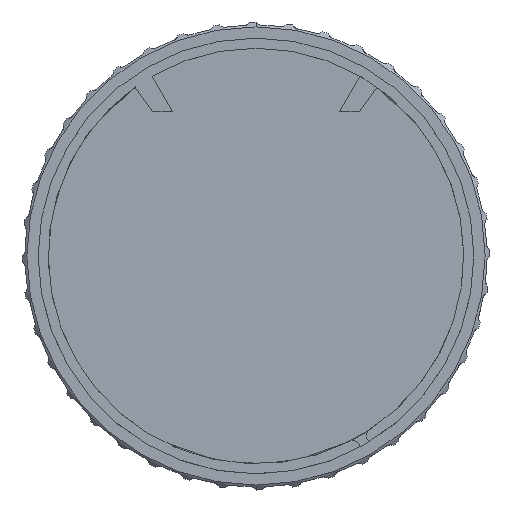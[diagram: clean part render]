
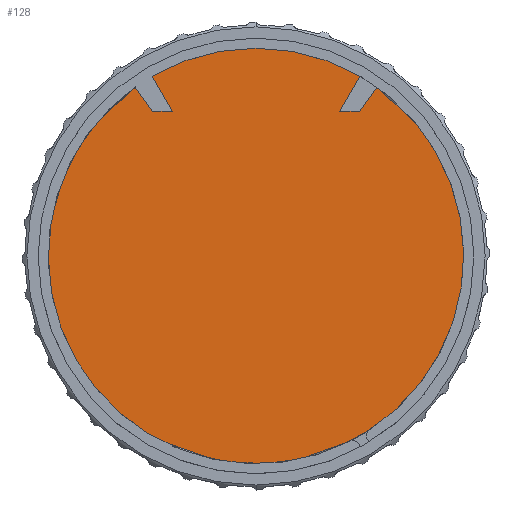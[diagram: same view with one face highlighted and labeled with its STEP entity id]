
A CAD part, top view. The second image highlights one B-rep face of the part: STEP entity #128.
In plain terms, the highlighted planar face has unit normal (0, 0, 1).
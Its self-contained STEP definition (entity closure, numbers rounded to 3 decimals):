
#128=ADVANCED_FACE('',(#606,#607),#608,.F.);
#606=FACE_BOUND('',#1433,.T.);
#607=FACE_OUTER_BOUND('',#1434,.T.);
#608=PLANE('',#1435);
#1433=EDGE_LOOP('',(#2959,#2960,#2961,#2962,#2963,#2964,#2965,#2966,#2967,#2968,#2969,#2970,#2971,#2972,#2973,#2974));
#1434=EDGE_LOOP('',(#2975,#2976));
#1435=AXIS2_PLACEMENT_3D('',#2977,#2978,#2979);
#2959=ORIENTED_EDGE('',*,*,#6082,.T.);
#2960=ORIENTED_EDGE('',*,*,#6067,.T.);
#2961=ORIENTED_EDGE('',*,*,#6087,.T.);
#2962=ORIENTED_EDGE('',*,*,#6088,.T.);
#2963=ORIENTED_EDGE('',*,*,#6013,.T.);
#2964=ORIENTED_EDGE('',*,*,#6037,.T.);
#2965=ORIENTED_EDGE('',*,*,#6089,.T.);
#2966=ORIENTED_EDGE('',*,*,#6090,.T.);
#2967=ORIENTED_EDGE('',*,*,#6027,.T.);
#2968=ORIENTED_EDGE('',*,*,#6091,.T.);
#2969=ORIENTED_EDGE('',*,*,#6072,.T.);
#2970=ORIENTED_EDGE('',*,*,#6092,.T.);
#2971=ORIENTED_EDGE('',*,*,#6093,.T.);
#2972=ORIENTED_EDGE('',*,*,#6035,.T.);
#2973=ORIENTED_EDGE('',*,*,#6009,.T.);
#2974=ORIENTED_EDGE('',*,*,#6094,.T.);
#2975=ORIENTED_EDGE('',*,*,#6023,.F.);
#2976=ORIENTED_EDGE('',*,*,#6095,.F.);
#2977=CARTESIAN_POINT('',(0.,0.0,20.3));
#2978=DIRECTION('',(0.0,0.0,-1.0));
#2979=DIRECTION('',(-1.0,0.0,0.0));
#6009=EDGE_CURVE('',#7697,#7694,#7698,.T.);
#6013=EDGE_CURVE('',#7705,#7703,#7706,.T.);
#6023=EDGE_CURVE('',#7720,#7723,#7724,.T.);
#6027=EDGE_CURVE('',#7731,#7728,#7732,.T.);
#6035=EDGE_CURVE('',#7742,#7697,#7745,.T.);
#6037=EDGE_CURVE('',#7703,#7746,#7749,.T.);
#6067=EDGE_CURVE('',#7798,#7796,#7799,.T.);
#6072=EDGE_CURVE('',#7807,#7805,#7808,.T.);
#6082=EDGE_CURVE('',#7825,#7798,#7826,.T.);
#6087=EDGE_CURVE('',#7796,#7831,#7833,.T.);
#6088=EDGE_CURVE('',#7831,#7705,#7834,.T.);
#6089=EDGE_CURVE('',#7746,#7835,#7836,.T.);
#6090=EDGE_CURVE('',#7835,#7731,#7837,.T.);
#6091=EDGE_CURVE('',#7728,#7807,#7838,.T.);
#6092=EDGE_CURVE('',#7805,#7839,#7840,.T.);
#6093=EDGE_CURVE('',#7839,#7742,#7841,.T.);
#6094=EDGE_CURVE('',#7694,#7825,#7842,.T.);
#6095=EDGE_CURVE('',#7723,#7720,#7843,.T.);
#7694=VERTEX_POINT('',#11583);
#7697=VERTEX_POINT('',#11587);
#7698=CIRCLE('',#11588,25.75);
#7703=VERTEX_POINT('',#11594);
#7705=VERTEX_POINT('',#11597);
#7706=CIRCLE('',#11598,25.75);
#7720=VERTEX_POINT('',#11615);
#7723=VERTEX_POINT('',#11619);
#7724=CIRCLE('',#11620,27.75);
#7728=VERTEX_POINT('',#11625);
#7731=VERTEX_POINT('',#11629);
#7732=CIRCLE('',#11630,27.5);
#7742=VERTEX_POINT('',#11643);
#7745=CIRCLE('',#11647,0.875);
#7746=VERTEX_POINT('',#11648);
#7749=CIRCLE('',#11652,0.875);
#7796=VERTEX_POINT('',#11710);
#7798=VERTEX_POINT('',#11713);
#7799=LINE('',#11714,#11715);
#7805=VERTEX_POINT('',#11722);
#7807=VERTEX_POINT('',#11725);
#7808=CIRCLE('',#11726,2.0);
#7825=VERTEX_POINT('',#11748);
#7826=LINE('',#11749,#11750);
#7831=VERTEX_POINT('',#11757);
#7833=LINE('',#11760,#11761);
#7834=CIRCLE('',#11762,25.75);
#7835=VERTEX_POINT('',#11763);
#7836=CIRCLE('',#11764,0.875);
#7837=CIRCLE('',#11765,27.5);
#7838=CIRCLE('',#11766,27.5);
#7839=VERTEX_POINT('',#11767);
#7840=CIRCLE('',#11768,27.5);
#7841=CIRCLE('',#11769,0.875);
#7842=CIRCLE('',#11770,25.75);
#7843=CIRCLE('',#11771,27.75);
#11583=CARTESIAN_POINT('',(22.3,12.875,20.3));
#11587=CARTESIAN_POINT('',(-11.62,-22.979,20.3));
#11588=AXIS2_PLACEMENT_3D('',#14962,#14963,#14964);
#11594=CARTESIAN_POINT('',(-14.091,-21.553,20.3));
#11597=CARTESIAN_POINT('',(-22.3,-12.875,20.3));
#11598=AXIS2_PLACEMENT_3D('',#14970,#14971,#14972);
#11615=CARTESIAN_POINT('',(0.,27.75,20.3));
#11619=CARTESIAN_POINT('',(0.,-27.75,20.3));
#11620=AXIS2_PLACEMENT_3D('',#14992,#14993,#14994);
#11625=CARTESIAN_POINT('',(23.816,13.75,20.3));
#11629=CARTESIAN_POINT('',(-23.816,-13.75,20.3));
#11630=AXIS2_PLACEMENT_3D('',#15000,#15001,#15002);
#11643=CARTESIAN_POINT('',(-12.772,-23.323,20.3));
#11647=AXIS2_PLACEMENT_3D('',#15016,#15017,#15018);
#11648=CARTESIAN_POINT('',(-13.812,-22.723,20.3));
#11652=AXIS2_PLACEMENT_3D('',#15020,#15021,#15022);
#11710=CARTESIAN_POINT('',(10.35,17.927,20.3));
#11713=CARTESIAN_POINT('',(12.821,17.927,20.3));
#11714=CARTESIAN_POINT('',(5.793,17.927,20.3));
#11715=VECTOR('',#15086,1.0);
#11722=CARTESIAN_POINT('',(-10.161,-25.554,20.3));
#11725=CARTESIAN_POINT('',(-7.726,-26.393,20.3));
#11726=AXIS2_PLACEMENT_3D('',#15095,#15096,#15097);
#11748=CARTESIAN_POINT('',(14.979,20.945,20.3));
#11749=CARTESIAN_POINT('',(6.95,9.718,20.3));
#11750=VECTOR('',#15115,1.);
#11757=CARTESIAN_POINT('',(12.875,22.3,20.3));
#11760=CARTESIAN_POINT('',(5.806,10.057,20.3));
#11761=VECTOR('',#15122,1.);
#11762=AXIS2_PLACEMENT_3D('',#15123,#15124,#15125);
#11763=CARTESIAN_POINT('',(-15.048,-23.017,20.3));
#11764=AXIS2_PLACEMENT_3D('',#15126,#15127,#15128);
#11765=AXIS2_PLACEMENT_3D('',#15129,#15130,#15131);
#11766=AXIS2_PLACEMENT_3D('',#15132,#15133,#15134);
#11767=CARTESIAN_POINT('',(-12.41,-24.541,20.3));
#11768=AXIS2_PLACEMENT_3D('',#15135,#15136,#15137);
#11769=AXIS2_PLACEMENT_3D('',#15138,#15139,#15140);
#11770=AXIS2_PLACEMENT_3D('',#15141,#15142,#15143);
#11771=AXIS2_PLACEMENT_3D('',#15144,#15145,#15146);
#14962=CARTESIAN_POINT('',(0.,0.,20.3));
#14963=DIRECTION('',(0.0,-0.0,1.0));
#14964=DIRECTION('',(0.866,0.5,0.0));
#14970=CARTESIAN_POINT('',(0.,0.,20.3));
#14971=DIRECTION('',(0.0,-0.0,1.0));
#14972=DIRECTION('',(0.866,0.5,0.0));
#14992=CARTESIAN_POINT('',(0.,0.0,20.3));
#14993=DIRECTION('',(0.0,0.0,-1.0));
#14994=DIRECTION('',(0.0,1.0,0.0));
#15000=CARTESIAN_POINT('',(0.,0.,20.3));
#15001=DIRECTION('',(0.0,0.0,-1.0));
#15002=DIRECTION('',(0.866,0.5,0.0));
#15016=CARTESIAN_POINT('',(-12.015,-23.76,20.3));
#15017=DIRECTION('',(0.0,0.0,-1.0));
#15018=DIRECTION('',(0.866,-0.5,0.0));
#15020=CARTESIAN_POINT('',(-14.569,-22.285,20.3));
#15021=DIRECTION('',(0.0,0.0,-1.0));
#15022=DIRECTION('',(0.866,-0.5,0.0));
#15086=DIRECTION('',(-1.0,0.,0.0));
#15095=CARTESIAN_POINT('',(-9.441,-27.42,20.3));
#15096=DIRECTION('',(0.0,0.0,1.0));
#15097=DIRECTION('',(0.866,-0.5,0.0));
#15115=DIRECTION('',(-0.582,-0.813,0.0));
#15122=DIRECTION('',(0.5,0.866,-0.0));
#15123=CARTESIAN_POINT('',(0.,0.,20.3));
#15124=DIRECTION('',(0.0,-0.0,1.0));
#15125=DIRECTION('',(0.866,0.5,0.0));
#15126=CARTESIAN_POINT('',(-14.569,-22.285,20.3));
#15127=DIRECTION('',(0.0,0.0,-1.0));
#15128=DIRECTION('',(0.866,-0.5,0.0));
#15129=CARTESIAN_POINT('',(0.,0.,20.3));
#15130=DIRECTION('',(0.0,0.0,-1.0));
#15131=DIRECTION('',(0.866,0.5,0.0));
#15132=CARTESIAN_POINT('',(0.,0.,20.3));
#15133=DIRECTION('',(0.0,0.0,-1.0));
#15134=DIRECTION('',(0.866,0.5,0.0));
#15135=CARTESIAN_POINT('',(0.,0.,20.3));
#15136=DIRECTION('',(0.0,0.0,-1.0));
#15137=DIRECTION('',(0.866,0.5,0.0));
#15138=CARTESIAN_POINT('',(-12.015,-23.76,20.3));
#15139=DIRECTION('',(0.0,0.0,-1.0));
#15140=DIRECTION('',(0.866,-0.5,0.0));
#15141=CARTESIAN_POINT('',(0.,0.,20.3));
#15142=DIRECTION('',(0.0,-0.0,1.0));
#15143=DIRECTION('',(0.866,0.5,0.0));
#15144=CARTESIAN_POINT('',(0.,0.0,20.3));
#15145=DIRECTION('',(0.0,0.0,-1.0));
#15146=DIRECTION('',(0.0,1.0,0.0));
